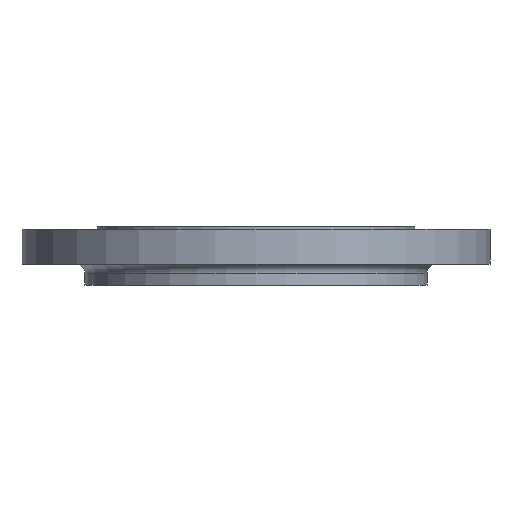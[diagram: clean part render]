
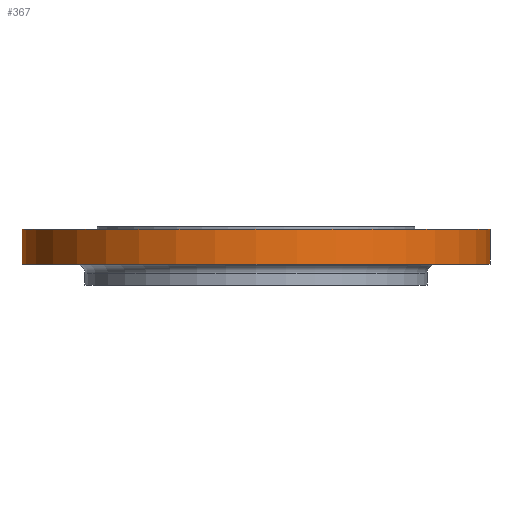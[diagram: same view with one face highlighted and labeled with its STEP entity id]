
A CAD part, front view. The second image highlights one B-rep face of the part: STEP entity #367.
In plain terms, the highlighted cylindrical face has radius 290 mm (diameter 580 mm), a partial arc.
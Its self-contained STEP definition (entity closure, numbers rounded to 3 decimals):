
#13 = DIRECTION ( 'NONE',  ( 1., 0., 0. ) ) ;
#15 = DIRECTION ( 'NONE',  ( 0., 0., 1. ) ) ;
#17 = CARTESIAN_POINT ( 'NONE',  ( 0., 0., -46. ) ) ;
#98 = VECTOR ( 'NONE', #1630, 1000. ) ;
#152 = EDGE_CURVE ( 'NONE', #243, #604, #195, .T. ) ;
#182 = EDGE_CURVE ( 'NONE', #604, #1168, #587, .T. ) ;
#189 = AXIS2_PLACEMENT_3D ( 'NONE', #17, #15, #13 ) ;
#195 = CIRCLE ( 'NONE', #189, 290. ) ;
#243 = VERTEX_POINT ( 'NONE', #1701 ) ;
#357 = VERTEX_POINT ( 'NONE', #1663 ) ;
#367 = ADVANCED_FACE ( 'NONE', ( #1659 ), #1658, .T. ) ;
#448 = DIRECTION ( 'NONE',  ( 0., 0., 1. ) ) ;
#455 = LINE ( 'NONE', #456, #1146 ) ;
#456 = CARTESIAN_POINT ( 'NONE',  ( -290., 0., -135. ) ) ;
#489 = EDGE_CURVE ( 'NONE', #1168, #357, #1456, .T. ) ;
#578 = CARTESIAN_POINT ( 'NONE',  ( 290., 0., -3. ) ) ;
#587 = LINE ( 'NONE', #589, #98 ) ;
#589 = CARTESIAN_POINT ( 'NONE',  ( 290., 0., -135. ) ) ;
#604 = VERTEX_POINT ( 'NONE', #1517 ) ;
#782 = ORIENTED_EDGE ( 'NONE', *, *, #1308, .F. ) ;
#786 = ORIENTED_EDGE ( 'NONE', *, *, #152, .T. ) ;
#787 = ORIENTED_EDGE ( 'NONE', *, *, #182, .T. ) ;
#788 = ORIENTED_EDGE ( 'NONE', *, *, #489, .T. ) ;
#992 = AXIS2_PLACEMENT_3D ( 'NONE', #1657, #1656, #1655 ) ;
#1146 = VECTOR ( 'NONE', #448, 1000. ) ;
#1168 = VERTEX_POINT ( 'NONE', #578 ) ;
#1224 = EDGE_LOOP ( 'NONE', ( #782, #786, #787, #788 ) ) ;
#1308 = EDGE_CURVE ( 'NONE', #243, #357, #455, .T. ) ;
#1453 = AXIS2_PLACEMENT_3D ( 'NONE', #1601, #1599, #1598 ) ;
#1456 = CIRCLE ( 'NONE', #1453, 290. ) ;
#1517 = CARTESIAN_POINT ( 'NONE',  ( 290., 0., -46. ) ) ;
#1598 = DIRECTION ( 'NONE',  ( -1., 0., 0. ) ) ;
#1599 = DIRECTION ( 'NONE',  ( 0., 0., -1. ) ) ;
#1601 = CARTESIAN_POINT ( 'NONE',  ( 0., 0., -3. ) ) ;
#1630 = DIRECTION ( 'NONE',  ( 0., 0., 1. ) ) ;
#1655 = DIRECTION ( 'NONE',  ( 1., 0., 0. ) ) ;
#1656 = DIRECTION ( 'NONE',  ( 0., 0., 1. ) ) ;
#1657 = CARTESIAN_POINT ( 'NONE',  ( 0., 0., -135. ) ) ;
#1658 = CYLINDRICAL_SURFACE ( 'NONE', #992, 290. ) ;
#1659 = FACE_OUTER_BOUND ( 'NONE', #1224, .T. ) ;
#1663 = CARTESIAN_POINT ( 'NONE',  ( -290., 0., -3. ) ) ;
#1701 = CARTESIAN_POINT ( 'NONE',  ( -290., 0., -46. ) ) ;
